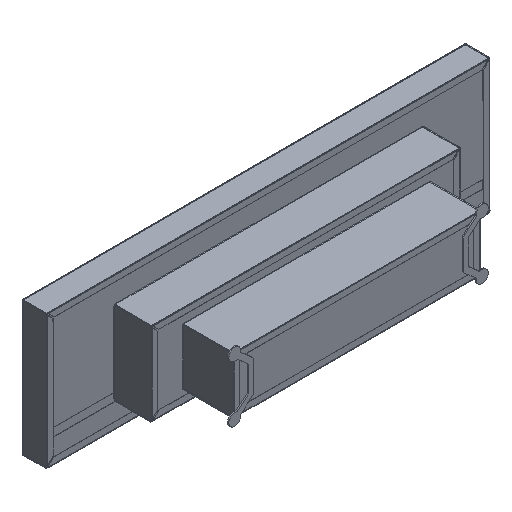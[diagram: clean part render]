
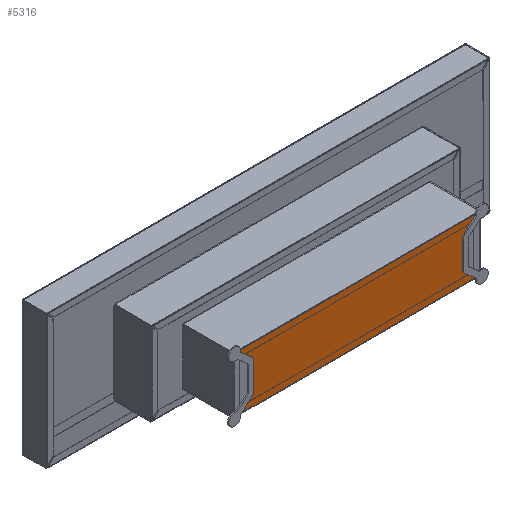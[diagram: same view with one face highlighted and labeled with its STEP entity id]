
A CAD part, isometric view. The second image highlights one B-rep face of the part: STEP entity #5316.
In plain terms, the highlighted planar face has unit normal (0, -1, 0).
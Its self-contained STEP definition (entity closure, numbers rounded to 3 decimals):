
#60 = VERTEX_POINT ( 'NONE', #1855 ) ;
#259 = EDGE_CURVE ( 'NONE', #18909, #19503, #20105, .T. ) ;
#365 = DIRECTION ( 'NONE',  ( 0.755, 0., -0.656 ) ) ;
#389 = VERTEX_POINT ( 'NONE', #14539 ) ;
#555 = AXIS2_PLACEMENT_3D ( 'NONE', #11345, #12784, #3668 ) ;
#624 = VECTOR ( 'NONE', #18153, 1000. ) ;
#712 = LINE ( 'NONE', #19418, #8015 ) ;
#749 = VERTEX_POINT ( 'NONE', #10675 ) ;
#992 = LINE ( 'NONE', #8864, #11908 ) ;
#1149 = AXIS2_PLACEMENT_3D ( 'NONE', #18332, #4331, #1252 ) ;
#1218 = LINE ( 'NONE', #19940, #9626 ) ;
#1252 = DIRECTION ( 'NONE',  ( -0.275, 0., -0.962 ) ) ;
#1537 = CARTESIAN_POINT ( 'NONE',  ( 460., -1.25, -105. ) ) ;
#1855 = CARTESIAN_POINT ( 'NONE',  ( -437.639, -1.25, -102.5 ) ) ;
#2132 = EDGE_CURVE ( 'NONE', #12575, #389, #9978, .T. ) ;
#2357 = CARTESIAN_POINT ( 'NONE',  ( -390., -1.25, -46.007 ) ) ;
#2403 = DIRECTION ( 'NONE',  ( 0.275, 0., -0.962 ) ) ;
#2721 = EDGE_CURVE ( 'NONE', #18909, #60, #992, .T. ) ;
#2723 = EDGE_CURVE ( 'NONE', #60, #12353, #17758, .T. ) ;
#3074 = AXIS2_PLACEMENT_3D ( 'NONE', #13577, #18173, #19804 ) ;
#3271 = ORIENTED_EDGE ( 'NONE', *, *, #259, .T. ) ;
#3651 = DIRECTION ( 'NONE',  ( 0., 0., -1. ) ) ;
#3668 = DIRECTION ( 'NONE',  ( 0., 0., -1. ) ) ;
#3913 = DIRECTION ( 'NONE',  ( 0., 0., 1. ) ) ;
#3962 = CARTESIAN_POINT ( 'NONE',  ( -460., -1.25, 105. ) ) ;
#4106 = VERTEX_POINT ( 'NONE', #20239 ) ;
#4305 = DIRECTION ( 'NONE',  ( -0.755, 0., 0.656 ) ) ;
#4331 = DIRECTION ( 'NONE',  ( 0., -1., 0. ) ) ;
#4370 = DIRECTION ( 'NONE',  ( 0.755, 0., 0.656 ) ) ;
#4621 = DIRECTION ( 'NONE',  ( -0.275, 0., 0.962 ) ) ;
#4860 = ORIENTED_EDGE ( 'NONE', *, *, #9473, .F. ) ;
#5316 = ADVANCED_FACE ( 'NONE', ( #14314 ), #9902, .T. ) ;
#5431 = DIRECTION ( 'NONE',  ( 1., 0., 0. ) ) ;
#5689 = CARTESIAN_POINT ( 'NONE',  ( 436.044, -1.25, 97.426 ) ) ;
#5702 = VECTOR ( 'NONE', #365, 1000. ) ;
#5920 = ORIENTED_EDGE ( 'NONE', *, *, #14141, .T. ) ;
#6056 = DIRECTION ( 'NONE',  ( 0., 1., 0. ) ) ;
#6333 = VECTOR ( 'NONE', #4370, 1000. ) ;
#6391 = ORIENTED_EDGE ( 'NONE', *, *, #12626, .F. ) ;
#6895 = CARTESIAN_POINT ( 'NONE',  ( 438.228, -1.25, -99.324 ) ) ;
#7062 = CARTESIAN_POINT ( 'NONE',  ( -438.228, -1.25, 99.324 ) ) ;
#7137 = LINE ( 'NONE', #17656, #15215 ) ;
#7232 = VERTEX_POINT ( 'NONE', #18439 ) ;
#7699 = AXIS2_PLACEMENT_3D ( 'NONE', #1537, #6056, #4621 ) ;
#8015 = VECTOR ( 'NONE', #5431, 1000. ) ;
#8864 = CARTESIAN_POINT ( 'NONE',  ( -457.5, -1.25, -102.5 ) ) ;
#9227 = ORIENTED_EDGE ( 'NONE', *, *, #19006, .F. ) ;
#9473 = EDGE_CURVE ( 'NONE', #389, #4106, #19684, .T. ) ;
#9626 = VECTOR ( 'NONE', #4305, 1000. ) ;
#9902 = PLANE ( 'NONE',  #555 ) ;
#9978 = CIRCLE ( 'NONE', #1149, 22.5 ) ;
#9981 = LINE ( 'NONE', #11426, #5702 ) ;
#10190 = DIRECTION ( 'NONE',  ( 0., 1., 0. ) ) ;
#10399 = DIRECTION ( 'NONE',  ( -1., 0., 0. ) ) ;
#10458 = ORIENTED_EDGE ( 'NONE', *, *, #2132, .F. ) ;
#10527 = CARTESIAN_POINT ( 'NONE',  ( 437.639, -1.25, -102.5 ) ) ;
#10675 = CARTESIAN_POINT ( 'NONE',  ( -390., -1.25, 57.4 ) ) ;
#11345 = CARTESIAN_POINT ( 'NONE',  ( 0., -1.25, 0. ) ) ;
#11426 = CARTESIAN_POINT ( 'NONE',  ( -436.044, -1.25, 97.426 ) ) ;
#11508 = CARTESIAN_POINT ( 'NONE',  ( 390., -1.25, -57.4 ) ) ;
#11908 = VECTOR ( 'NONE', #10399, 1000. ) ;
#12057 = ORIENTED_EDGE ( 'NONE', *, *, #2721, .F. ) ;
#12283 = EDGE_CURVE ( 'NONE', #7232, #12575, #712, .T. ) ;
#12295 = VERTEX_POINT ( 'NONE', #7062 ) ;
#12353 = VERTEX_POINT ( 'NONE', #14400 ) ;
#12575 = VERTEX_POINT ( 'NONE', #19606 ) ;
#12605 = EDGE_LOOP ( 'NONE', ( #12057, #3271, #5920, #6391, #4860, #10458, #14681, #18526, #13464, #9227, #19962, #18600 ) ) ;
#12626 = EDGE_CURVE ( 'NONE', #4106, #13939, #7137, .T. ) ;
#12784 = DIRECTION ( 'NONE',  ( 0., -1., 0. ) ) ;
#12881 = VECTOR ( 'NONE', #3913, 1000. ) ;
#13221 = LINE ( 'NONE', #19549, #6333 ) ;
#13464 = ORIENTED_EDGE ( 'NONE', *, *, #19350, .T. ) ;
#13577 = CARTESIAN_POINT ( 'NONE',  ( -460., -1.25, -105. ) ) ;
#13939 = VERTEX_POINT ( 'NONE', #11508 ) ;
#14141 = EDGE_CURVE ( 'NONE', #19503, #13939, #1218, .T. ) ;
#14160 = CARTESIAN_POINT ( 'NONE',  ( -390., -1.25, -57.4 ) ) ;
#14314 = FACE_OUTER_BOUND ( 'NONE', #12605, .T. ) ;
#14400 = CARTESIAN_POINT ( 'NONE',  ( -438.228, -1.25, -99.324 ) ) ;
#14539 = CARTESIAN_POINT ( 'NONE',  ( 438.228, -1.25, 99.324 ) ) ;
#14681 = ORIENTED_EDGE ( 'NONE', *, *, #12283, .F. ) ;
#15215 = VECTOR ( 'NONE', #3651, 1000. ) ;
#15889 = CIRCLE ( 'NONE', #19473, 22.5 ) ;
#17397 = LINE ( 'NONE', #2357, #12881 ) ;
#17656 = CARTESIAN_POINT ( 'NONE',  ( 390., -1.25, 46.007 ) ) ;
#17758 = CIRCLE ( 'NONE', #3074, 22.5 ) ;
#18057 = VERTEX_POINT ( 'NONE', #14160 ) ;
#18153 = DIRECTION ( 'NONE',  ( -0.755, 0., -0.656 ) ) ;
#18173 = DIRECTION ( 'NONE',  ( 0., -1., 0. ) ) ;
#18332 = CARTESIAN_POINT ( 'NONE',  ( 460., -1.25, 105. ) ) ;
#18439 = CARTESIAN_POINT ( 'NONE',  ( -437.639, -1.25, 102.5 ) ) ;
#18526 = ORIENTED_EDGE ( 'NONE', *, *, #19450, .T. ) ;
#18600 = ORIENTED_EDGE ( 'NONE', *, *, #2723, .F. ) ;
#18909 = VERTEX_POINT ( 'NONE', #10527 ) ;
#19006 = EDGE_CURVE ( 'NONE', #18057, #749, #17397, .T. ) ;
#19068 = EDGE_CURVE ( 'NONE', #12353, #18057, #13221, .T. ) ;
#19350 = EDGE_CURVE ( 'NONE', #12295, #749, #9981, .T. ) ;
#19418 = CARTESIAN_POINT ( 'NONE',  ( 457.5, -1.25, 102.5 ) ) ;
#19450 = EDGE_CURVE ( 'NONE', #7232, #12295, #15889, .T. ) ;
#19473 = AXIS2_PLACEMENT_3D ( 'NONE', #3962, #10190, #2403 ) ;
#19503 = VERTEX_POINT ( 'NONE', #6895 ) ;
#19549 = CARTESIAN_POINT ( 'NONE',  ( -436.044, -1.25, -97.426 ) ) ;
#19606 = CARTESIAN_POINT ( 'NONE',  ( 437.639, -1.25, 102.5 ) ) ;
#19684 = LINE ( 'NONE', #5689, #624 ) ;
#19804 = DIRECTION ( 'NONE',  ( 0.275, 0., 0.962 ) ) ;
#19940 = CARTESIAN_POINT ( 'NONE',  ( 436.044, -1.25, -97.426 ) ) ;
#19962 = ORIENTED_EDGE ( 'NONE', *, *, #19068, .F. ) ;
#20105 = CIRCLE ( 'NONE', #7699, 22.5 ) ;
#20239 = CARTESIAN_POINT ( 'NONE',  ( 390., -1.25, 57.4 ) ) ;
